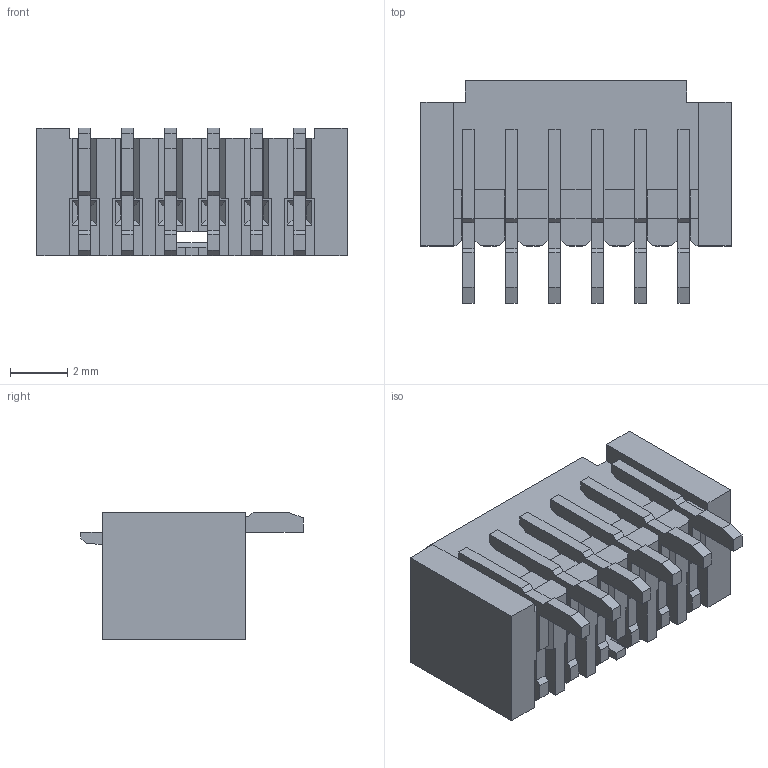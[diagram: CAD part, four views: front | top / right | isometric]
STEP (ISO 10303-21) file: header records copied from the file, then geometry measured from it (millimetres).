
FILE_DESCRIPTION((''),'2;1');
FILE_NAME('S-50290-06XX-WXX','2019-06-27T',('d35127'),(''),'CREO PARAMETRIC BY PTC INC, 2014500','CREO PARAMETRIC BY PTC INC, 2014500','');
FILE_SCHEMA(('CONFIG_CONTROL_DESIGN'));
Length unit declared in the file: millimetre
Products named in the file (1): S-50290-06XX-WXX
Bounding box: 10.8 x 7.75 x 4.45 mm (x, y, z)
Volume: 123.7 mm3; surface area: 522.8 mm2
Topology: 1 solids, 1 shells, 471 faces, 1503 edges, 972 vertices
Faces by surface type: plane 435, cylinder 36
Entity records: 16399 total; most frequent: ORIENTED_EDGE 3006, CARTESIAN_POINT 2946, DIRECTION 2517, EDGE_CURVE 1503, VECTOR 1431, LINE 1431, VERTEX_POINT 972, AXIS2_PLACEMENT_3D 543
